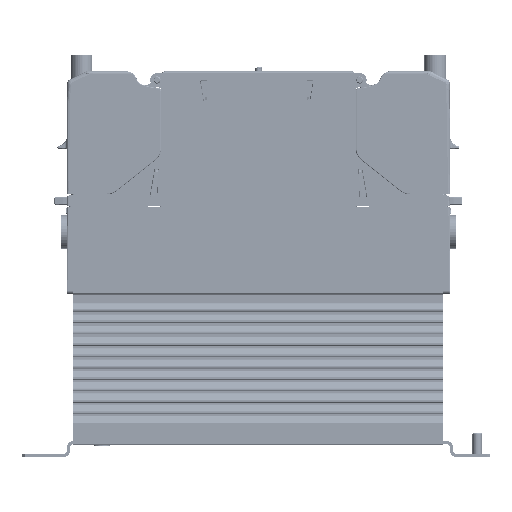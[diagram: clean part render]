
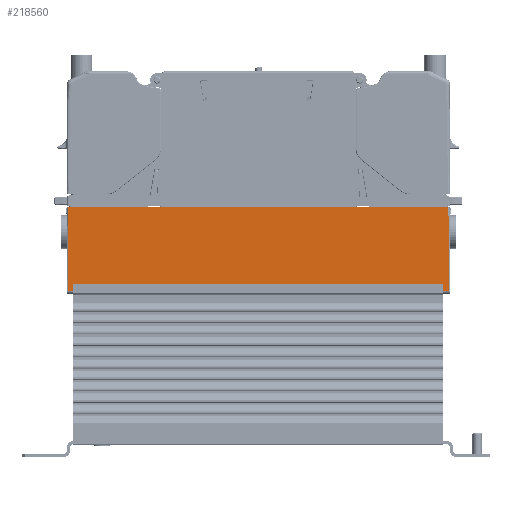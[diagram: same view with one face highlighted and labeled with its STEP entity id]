
A CAD part, left-side view. The second image highlights one B-rep face of the part: STEP entity #218560.
In plain terms, the highlighted planar face has unit normal (1, 0, 0).
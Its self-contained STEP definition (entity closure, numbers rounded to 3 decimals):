
#174334=CARTESIAN_POINT('',(-80.,118.6,24.));
#174340=DIRECTION('',(0.,0.,-1.));
#174341=VECTOR('',#174340,22.);
#174342=CARTESIAN_POINT('',(-80.,118.6,24.));
#174343=LINE('',#174342,#174341);
#174344=DIRECTION('',(0.,-0.009,1.));
#174345=VECTOR('',#174344,4.);
#174346=CARTESIAN_POINT('',(-80.,115.035,2.));
#174347=LINE('',#174346,#174345);
#174348=DIRECTION('',(0.,-1.,0.));
#174349=VECTOR('',#174348,230.);
#174350=CARTESIAN_POINT('',(-80.,115.,6.));
#174351=LINE('',#174350,#174349);
#174352=DIRECTION('',(0.,-0.009,-1.));
#174353=VECTOR('',#174352,4.);
#174354=CARTESIAN_POINT('',(-80.,-115.,6.));
#174355=LINE('',#174354,#174353);
#174356=DIRECTION('',(0.,0.017,1.));
#174357=VECTOR('',#174356,30.004);
#174358=CARTESIAN_POINT('',(-80.,-118.6,
24.));
#174359=LINE('',#174358,#174357);
#174360=DIRECTION('',(0.,1.,0.));
#174361=VECTOR('',#174360,236.2);
#174362=CARTESIAN_POINT('',(-80.,-118.1,
54.));
#174363=LINE('',#174362,#174361);
#174364=DIRECTION('',(0.,0.017,-1.));
#174365=VECTOR('',#174364,30.004);
#174366=CARTESIAN_POINT('',(-80.,118.1,54.));
#174367=LINE('',#174366,#174365);
#174368=DIRECTION('',(0.,-1.,0.));
#174369=VECTOR('',#174368,3.565);
#174370=CARTESIAN_POINT('',(-80.,118.6,2.));
#174371=LINE('',#174370,#174369);
#174429=CARTESIAN_POINT('',(-80.,-118.1,
54.));
#174500=CARTESIAN_POINT('',(-80.,-118.6,
24.));
#174502=DIRECTION('',(0.,0.,1.));
#174503=VECTOR('',#174502,22.);
#174504=CARTESIAN_POINT('',(-80.,-118.6,2.));
#174505=LINE('',#174504,#174503);
#175575=CARTESIAN_POINT('',(-80.,-115.035,2.));
#194117=DIRECTION('',(0.,-1.,0.));
#194118=VECTOR('',#194117,3.565);
#194119=CARTESIAN_POINT('',(-80.,-115.035,2.));
#194120=LINE('',#194119,#194118);
#206459=CARTESIAN_POINT('',(-80.,-115.,6.));
#206460=VERTEX_POINT('',#206459);
#206461=CARTESIAN_POINT('',(-80.,115.,6.));
#206462=VERTEX_POINT('',#206461);
#206498=VERTEX_POINT('',#175575);
#207677=VERTEX_POINT('',#174429);
#207678=CARTESIAN_POINT('',(-80.,118.1,54.));
#207679=VERTEX_POINT('',#207678);
#207816=VERTEX_POINT('',#174500);
#207817=CARTESIAN_POINT('',(-80.,-118.6,2.));
#207818=VERTEX_POINT('',#207817);
#207870=CARTESIAN_POINT('',(-80.,115.035,2.));
#207871=VERTEX_POINT('',#207870);
#209010=VERTEX_POINT('',#174334);
#209011=CARTESIAN_POINT('',(-80.,118.6,2.));
#209012=VERTEX_POINT('',#209011);
#218537=CARTESIAN_POINT('',(-80.,0.,28.));
#218538=DIRECTION('',(1.,0.,0.));
#218539=DIRECTION('',(0.,-1.,0.));
#218540=AXIS2_PLACEMENT_3D('',#218537,#218538,#218539);
#218541=PLANE('',#218540);
#218543=ORIENTED_EDGE('',*,*,#218542,.T.);
#218544=ORIENTED_EDGE('',*,*,#215585,.T.);
#218545=ORIENTED_EDGE('',*,*,#215494,.T.);
#218547=ORIENTED_EDGE('',*,*,#218546,.T.);
#218549=ORIENTED_EDGE('',*,*,#218548,.T.);
#218551=ORIENTED_EDGE('',*,*,#218550,.T.);
#218553=ORIENTED_EDGE('',*,*,#218552,.T.);
#218555=ORIENTED_EDGE('',*,*,#218554,.T.);
#218556=ORIENTED_EDGE('',*,*,#218529,.T.);
#218557=ORIENTED_EDGE('',*,*,#218518,.T.);
#218558=EDGE_LOOP('',(#218543,#218544,#218545,#218547,#218549,#218551,#218553,
#218555,#218556,#218557));
#218559=FACE_OUTER_BOUND('',#218558,.F.);
#215494=EDGE_CURVE('',#206462,#206460,#174351,.T.);
#215585=EDGE_CURVE('',#207871,#206462,#174347,.T.);
#218518=EDGE_CURVE('',#209010,#209012,#174343,.T.);
#218529=EDGE_CURVE('',#207679,#209010,#174367,.T.);
#218542=EDGE_CURVE('',#209012,#207871,#174371,.T.);
#218546=EDGE_CURVE('',#206460,#206498,#174355,.T.);
#218548=EDGE_CURVE('',#206498,#207818,#194120,.T.);
#218550=EDGE_CURVE('',#207818,#207816,#174505,.T.);
#218552=EDGE_CURVE('',#207816,#207677,#174359,.T.);
#218554=EDGE_CURVE('',#207677,#207679,#174363,.T.);
#218560=ADVANCED_FACE('',(#218559),#218541,.T.);
